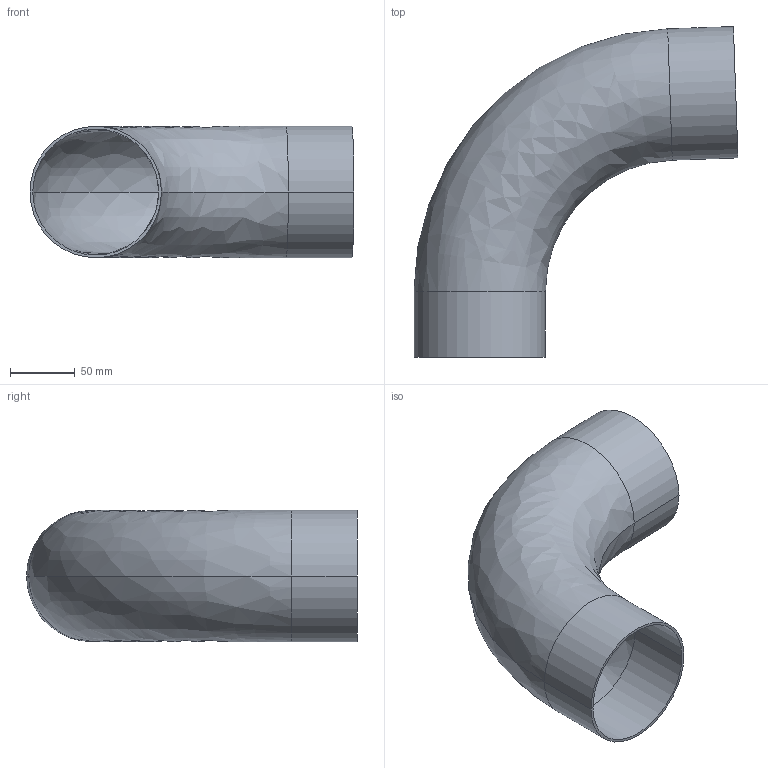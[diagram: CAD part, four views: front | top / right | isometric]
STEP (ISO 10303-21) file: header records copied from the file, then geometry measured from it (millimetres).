
FILE_DESCRIPTION (( 'STEP AP214' ), '1' );
FILE_NAME ('TE2S886L4.0-...STEP', '2016-05-22T08:46:51', ( 'eran' ), ( '' ), 'SwSTEP 2.0', 'SolidWorks 2016', '' );
FILE_SCHEMA (( 'AUTOMOTIVE_DESIGN' ));
Length unit declared in the file: millimetre
Products named in the file (1): TE2S886L4.0-..
Bounding box: 250.44 x 255.75 x 101.6 mm (x, y, z)
Volume: 221451 mm3; surface area: 211224.9 mm2
Topology: 1 solids, 1 shells, 14 faces, 28 edges, 16 vertices
Faces by surface type: cylinder 8, bspline 4, plane 2
Entity records: 450 total; most frequent: CARTESIAN_POINT 119, DIRECTION 70, ORIENTED_EDGE 56, AXIS2_PLACEMENT_3D 31, EDGE_CURVE 28, CIRCLE 20, EDGE_LOOP 16, VERTEX_POINT 16
